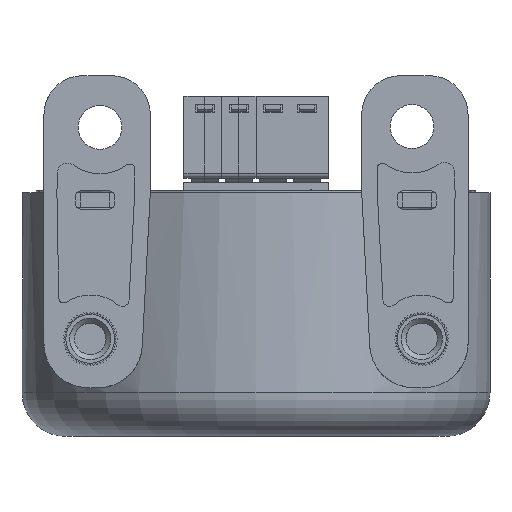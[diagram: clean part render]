
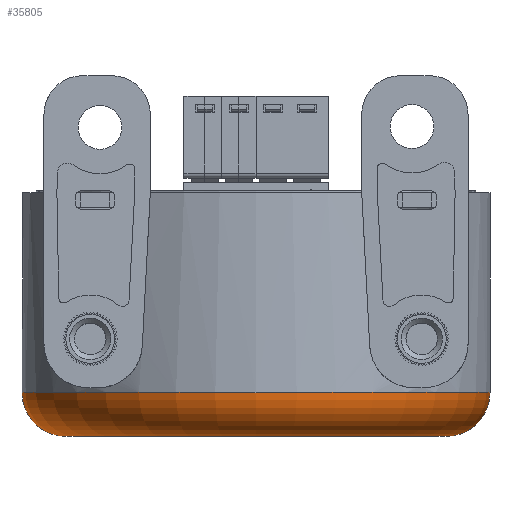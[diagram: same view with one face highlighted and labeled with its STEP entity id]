
A CAD part, front view. The second image highlights one B-rep face of the part: STEP entity #35805.
In plain terms, the highlighted toroidal (fillet/blend) face has major radius 19.5 mm and minor radius 4.5 mm.
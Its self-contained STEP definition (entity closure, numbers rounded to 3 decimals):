
#37=TOROIDAL_SURFACE('',#38106,19.5,4.5);
#895=CIRCLE('',#38071,19.5);
#914=CIRCLE('',#38107,4.5);
#915=CIRCLE('',#38108,24.);
#1576=FACE_OUTER_BOUND('',#3357,.T.);
#3357=EDGE_LOOP('',(#23860,#23861,#23862,#23863));
#14194=VERTEX_POINT('',#51894);
#14211=VERTEX_POINT('',#51963);
#17899=EDGE_CURVE('',#14194,#14194,#895,.T.);
#17930=EDGE_CURVE('',#14194,#14211,#914,.T.);
#17931=EDGE_CURVE('',#14211,#14211,#915,.T.);
#23860=ORIENTED_EDGE('',*,*,#17899,.T.);
#23861=ORIENTED_EDGE('',*,*,#17930,.T.);
#23862=ORIENTED_EDGE('',*,*,#17931,.T.);
#23863=ORIENTED_EDGE('',*,*,#17930,.F.);
#35805=ADVANCED_FACE('',(#1576),#37,.T.);
#38071=AXIS2_PLACEMENT_3D('',#51895,#42138,#42139);
#38106=AXIS2_PLACEMENT_3D('',#51962,#42218,#42219);
#38107=AXIS2_PLACEMENT_3D('',#51964,#42220,#42221);
#38108=AXIS2_PLACEMENT_3D('',#51965,#42222,#42223);
#42138=DIRECTION('center_axis',(0.,0.,1.));
#42139=DIRECTION('ref_axis',(-1.,0.,0.));
#42218=DIRECTION('center_axis',(0.,0.,-1.));
#42219=DIRECTION('ref_axis',(-1.,0.,0.));
#42220=DIRECTION('center_axis',(0.,-1.,0.));
#42221=DIRECTION('ref_axis',(1.,0.,0.));
#42222=DIRECTION('center_axis',(0.,0.,-1.));
#42223=DIRECTION('ref_axis',(-1.,0.,0.));
#51894=CARTESIAN_POINT('',(19.5,0.,0.));
#51895=CARTESIAN_POINT('Origin',(0.,0.,0.));
#51962=CARTESIAN_POINT('Origin',(0.,0.,4.5));
#51963=CARTESIAN_POINT('',(24.,0.,4.5));
#51964=CARTESIAN_POINT('Origin',(19.5,0.,4.5));
#51965=CARTESIAN_POINT('Origin',(0.,0.,4.5));
